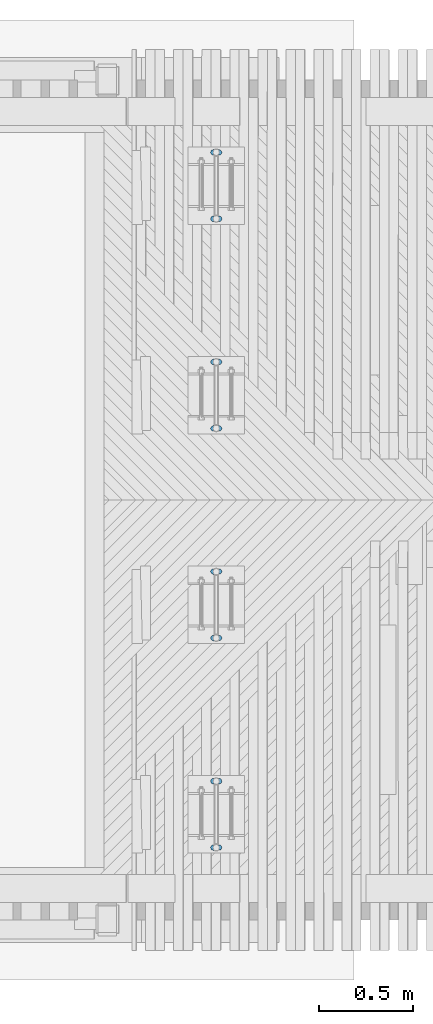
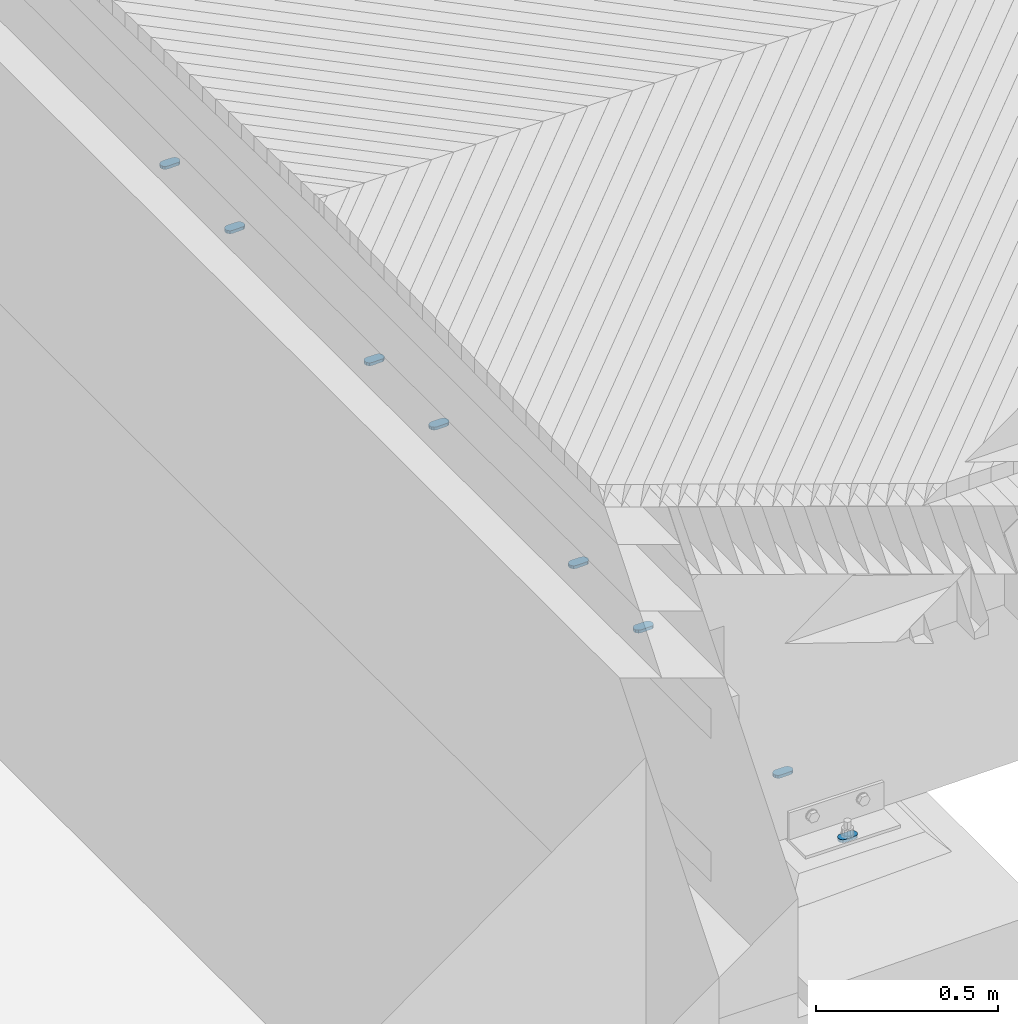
# One storey, part 4 of 47: 8 mechanical fasteners.
"""IFC2X3 building model written with IfcOpenShell, lengths in millimetres."""

from ifc_helpers import new_model, si_unit, frame, origin_with_axes, place, context, subcontext, project, spatial, faceted_brep, source, transform, mapped, material, type_object, element, save


model = new_model("IFC2X3")

# Units and contexts
model_context = context("Model", 3, precision=1e-05, world=origin_with_axes())
body_context = subcontext(model_context, "Body", "Model", "MODEL_VIEW")
ifc_project = project(units=[si_unit("LENGTHUNIT", "METRE", prefix="MILLI"), si_unit("AREAUNIT", "SQUARE_METRE"), si_unit("VOLUMEUNIT", "CUBIC_METRE"), si_unit("MASSUNIT", "GRAM", prefix="KILO"), si_unit("TIMEUNIT", "SECOND"), si_unit("PLANEANGLEUNIT", "RADIAN"), si_unit("SOLIDANGLEUNIT", "STERADIAN"), si_unit("THERMODYNAMICTEMPERATUREUNIT", "DEGREE_CELSIUS"), si_unit("LUMINOUSINTENSITYUNIT", "LUMEN")], contexts=[model_context])

# Site, building, storey
site_placement = place(None, origin_with_axes())
site = spatial("IfcSite", under=ifc_project, at=site_placement, Name="Undefined", CompositionType="ELEMENT")
building_placement = place(site_placement, origin_with_axes())
building = spatial("IfcBuilding", under=site, at=building_placement, Name="Undefined", CompositionType="ELEMENT")
storey_placement = place(building_placement, origin_with_axes())
storey = spatial("IfcBuildingStorey", under=building, at=storey_placement, Name="Undefined", CompositionType="ELEMENT", Elevation=0.0)

# Mechanical fasteners
ifc_material = material(Name="Undefined")
mechanical_fastener_type = type_object("IfcMechanicalFastenerType", Name="Bolt assembly")
shared_shape = source(origin_with_axes(), body_context, "Body", "Brep", [
    faceted_brep([(30.0, -9.99999999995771, 0.0), (28.8581929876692, -9.99999999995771, 5.7402514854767), (25.6066017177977, -9.99999999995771, 10.6066017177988), (20.7402514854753, -9.99999999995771, 13.8581929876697), (-15.0000000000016, -9.99999999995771, 15.0), (-22.5000000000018, -9.99999999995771, 12.9903810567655), (-27.9903810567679, -9.99999999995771, 7.49999999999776), (-30.0, -9.99999999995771, -3.10900794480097e-12), (-27.9903810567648, -9.99999999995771, -7.50000000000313), (-22.4999999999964, -9.99999999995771, -12.9903810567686), (-14.9999999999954, -9.99999999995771, -15.0), (15.0000000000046, -9.99999999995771, -15.0), (22.5000000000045, -9.99999999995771, -12.990381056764), (27.9903810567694, -9.99999999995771, -7.49999999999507), (30.0, 0.100000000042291, 0.0), (27.9903810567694, 0.100000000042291, -7.49999999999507), (22.5000000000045, 0.100000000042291, -12.990381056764), (15.0000000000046, 0.100000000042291, -15.0), (-14.9999999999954, 0.100000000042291, -15.0), (-22.4999999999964, 0.100000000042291, -12.9903810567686), (-27.9903810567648, 0.100000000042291, -7.50000000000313), (-30.0, 0.100000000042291, -3.10900794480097e-12), (-27.9903810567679, 0.100000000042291, 7.49999999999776), (-22.5000000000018, 0.100000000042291, 12.9903810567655), (-15.0000000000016, 0.100000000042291, 15.0), (20.7402514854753, 0.100000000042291, 13.8581929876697), (25.6066017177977, 0.100000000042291, 10.6066017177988), (28.8581929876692, 0.100000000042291, 5.7402514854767)], [[[0, 1, 2, 3, 4, 5, 6, 7, 8, 9, 10, 11, 12, 13]], [[14, 15, 16, 17, 18, 19, 20, 21, 22, 23, 24, 25, 26, 27]], [[0, 14, 27, 1]], [[1, 27, 26, 2]], [[2, 26, 25, 3]], [[3, 25, 24, 4]], [[4, 24, 23, 5]], [[5, 23, 22, 6]], [[6, 22, 21, 7]], [[7, 21, 20, 8]], [[8, 20, 19, 9]], [[9, 19, 18, 10]], [[10, 18, 17, 11]], [[11, 17, 16, 12]], [[12, 16, 15, 13]], [[13, 15, 14, 0]]]),
])
for number, where, z_axis, x_axis, name in (
    (1, (0.0, 62747.5000000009, 2007.32999999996), (0.0, -1.0, 0.0), (1.0, 0.0, 0.0), "Bolt assembly"),
    (2, (0.0, 63102.5000000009, 2007.32999999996), (0.0, -1.0, 0.0), (1.0, 0.0, 0.0), "Bolt assembly"),
    (3, (0.0, 63867.5000000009, 1985.32999999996), (0.0, -1.0, 0.0), (1.0, 0.0, 0.0), "Bolt assembly"),
    (4, (0.0, 64222.5000000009, 1985.32999999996), (0.0, -1.0, 0.0), (1.0, 0.0, 0.0), "Bolt assembly"),
    (5, (0.0, 61982.5, 2007.32999999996), (0.0, -1.0, 0.0), (1.0, 0.0, 0.0), "Bolt assembly"),
    (6, (0.0, 61627.5, 2007.32999999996), (0.0, -1.0, 0.0), (1.0, 0.0, 0.0), "Bolt assembly"),
    (7, (0.0, 60862.5, 1985.32999999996), (0.0, -1.0, 0.0), (1.0, 0.0, 0.0), "Bolt assembly"),
    (8, (0.0, 60507.5, 1985.32999999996), (0.0, -1.0, 0.0), (1.0, 0.0, 0.0), "Bolt assembly"),
):
    element("IfcMechanicalFastener", number, at=place(storey_placement, frame(where, z_axis=z_axis, x_axis=x_axis)), inside=storey, type_object=mechanical_fastener_type, material=ifc_material, Name=name, NominalDiameter=20.0, NominalLength=30.0, context=body_context, shape_type="MappedRepresentation", body=[
        mapped(shared_shape, transform((0.0, 0.0, 0.0))),
    ])

save(model, "model.ifc")
